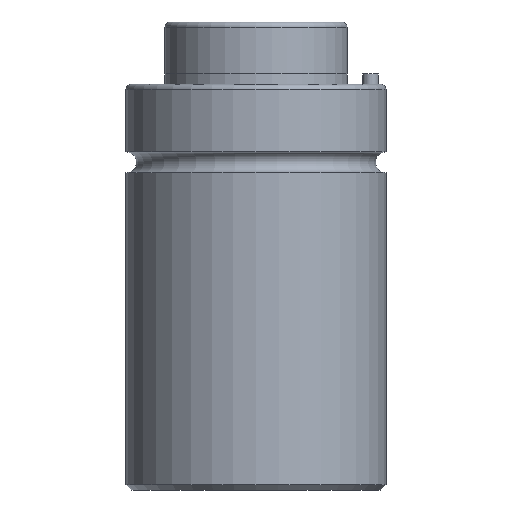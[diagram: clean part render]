
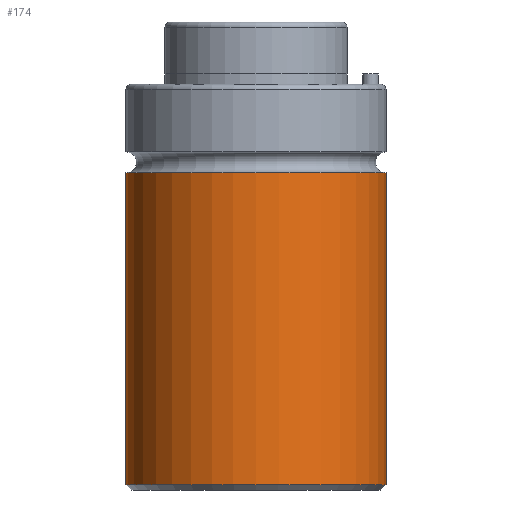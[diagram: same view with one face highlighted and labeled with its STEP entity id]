
A CAD part, front view. The second image highlights one B-rep face of the part: STEP entity #174.
In plain terms, the highlighted cylindrical face has radius 25 mm (diameter 50 mm), a partial arc.
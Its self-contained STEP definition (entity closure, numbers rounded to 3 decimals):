
#138=CYLINDRICAL_SURFACE('',#857,25.);
#174=ADVANCED_FACE('',(#232),#138,.T.);
#232=FACE_OUTER_BOUND('',#279,.T.);
#279=EDGE_LOOP('',(#457,#458,#459,#460));
#344=CIRCLE('',#851,25.);
#347=CIRCLE('',#856,25.);
#457=ORIENTED_EDGE('',*,*,#677,.T.);
#458=ORIENTED_EDGE('',*,*,#678,.F.);
#459=ORIENTED_EDGE('',*,*,#679,.F.);
#460=ORIENTED_EDGE('',*,*,#674,.T.);
#598=VERTEX_POINT('',#1261);
#599=VERTEX_POINT('',#1263);
#600=VERTEX_POINT('',#1269);
#601=VERTEX_POINT('',#1271);
#674=EDGE_CURVE('',#599,#598,#344,.T.);
#677=EDGE_CURVE('',#598,#600,#745,.T.);
#678=EDGE_CURVE('',#601,#600,#347,.T.);
#679=EDGE_CURVE('',#599,#601,#746,.T.);
#745=LINE('',#1268,#781);
#746=LINE('',#1272,#782);
#781=VECTOR('',#1032,1.);
#782=VECTOR('',#1035,1.);
#851=AXIS2_PLACEMENT_3D('',#1262,#1022,#1023);
#856=AXIS2_PLACEMENT_3D('',#1270,#1033,#1034);
#857=AXIS2_PLACEMENT_3D('',#1273,#1036,#1037);
#1022=DIRECTION('',(0.,0.,-1.));
#1023=DIRECTION('',(0.,1.,0.));
#1032=DIRECTION('',(0.,0.,-1.));
#1033=DIRECTION('',(0.,0.,-1.));
#1034=DIRECTION('',(0.,1.,0.));
#1035=DIRECTION('',(0.,0.,-1.));
#1036=DIRECTION('',(0.,0.,-1.));
#1037=DIRECTION('',(0.,-1.,0.));
#1261=CARTESIAN_POINT('',(-25.,0.,61.));
#1262=CARTESIAN_POINT('',(0.,0.,61.));
#1263=CARTESIAN_POINT('',(25.,0.,61.));
#1268=CARTESIAN_POINT('',(-25.,0.,61.));
#1269=CARTESIAN_POINT('',(-25.,0.,1.));
#1270=CARTESIAN_POINT('',(0.,0.,1.));
#1271=CARTESIAN_POINT('',(25.,0.,1.));
#1272=CARTESIAN_POINT('',(25.,0.,61.));
#1273=CARTESIAN_POINT('',(0.,0.,61.));
